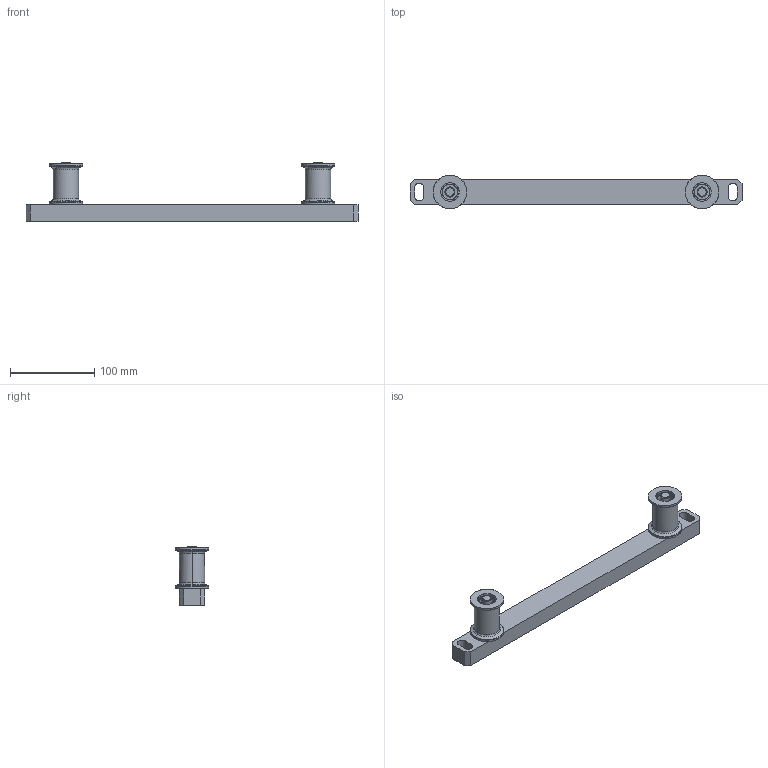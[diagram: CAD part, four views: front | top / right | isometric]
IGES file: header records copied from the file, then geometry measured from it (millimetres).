
Global section: file name: E:\UnigraphicsGraphicData\MISUMI_PRESS-PARTS\IGES\3d_gdrtbw30-38_03795_r00.igs; native system: NX V5.0; preprocessor: UGS NX IGES V5.0; author: MISUMI; date: 20110105.160709; units: millimetre
Bounding box: 395 x 40 x 70 mm (x, y, z)
Surface area: 70518.1 mm2 (no closed solid volume)
Topology: 0 solids, 0 shells, 172 faces, 1224 edges, 1224 vertices
Faces by surface type: bspline 172
